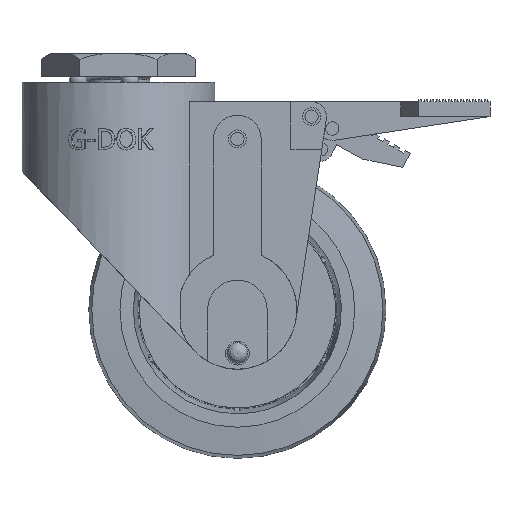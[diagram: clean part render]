
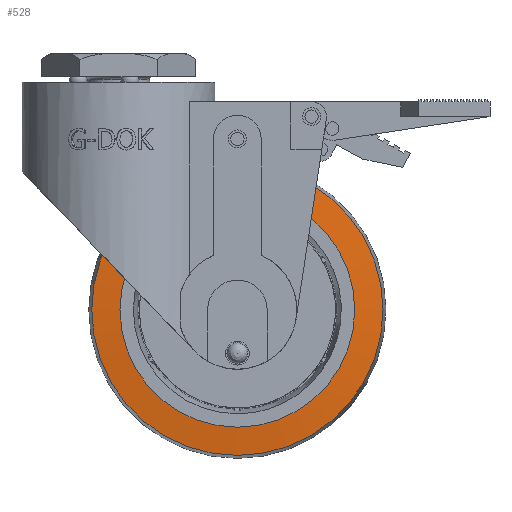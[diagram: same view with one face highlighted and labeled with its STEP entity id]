
A CAD part, front view. The second image highlights one B-rep face of the part: STEP entity #528.
In plain terms, the highlighted conical face has half-angle 83.991 degrees and reference radius 48.05 mm.
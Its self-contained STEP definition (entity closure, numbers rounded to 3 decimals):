
#476=CARTESIAN_POINT('',(93.752,44.482,11.2));
#477=VERTEX_POINT('',#476);
#478=CARTESIAN_POINT('',(93.752,44.482,-67.8));
#479=VERTEX_POINT('',#478);
#480=CARTESIAN_POINT('',(93.752,44.482,-28.3));
#481=DIRECTION('',(0.,-1.,0.));
#482=DIRECTION('',(0.294,0.,0.956));
#483=AXIS2_PLACEMENT_3D('',#480,#481,#482);
#484=CIRCLE('',#483,39.5);
#485=EDGE_CURVE('',#477,#479,#484,.T.);
#487=CARTESIAN_POINT('',(93.752,44.482,-28.3));
#488=DIRECTION('',(0.,-1.,0.));
#489=DIRECTION('',(0.294,0.,0.956));
#490=AXIS2_PLACEMENT_3D('',#487,#488,#489);
#491=CIRCLE('',#490,39.5);
#492=EDGE_CURVE('',#479,#477,#491,.T.);
#508=CARTESIAN_POINT('',(93.752,45.382,-28.3));
#509=DIRECTION('',(0.,1.0,0.));
#510=DIRECTION('',(0.294,0.,0.956));
#511=AXIS2_PLACEMENT_3D('',#508,#509,#510);
#512=CONICAL_SURFACE('',#511,48.05,83.991);
#513=CARTESIAN_POINT('',(93.752,45.482,-77.3));
#514=VERTEX_POINT('',#513);
#515=CARTESIAN_POINT('',(93.752,45.482,-28.3));
#516=DIRECTION('',(0.0,-1.0,0.0));
#517=DIRECTION('',(0.0,0.0,1.0));
#518=AXIS2_PLACEMENT_3D('',#515,#516,#517);
#519=CIRCLE('',#518,49.);
#520=EDGE_CURVE('',#514,#514,#519,.T.);
#521=ORIENTED_EDGE('',*,*,#520,.T.);
#522=EDGE_LOOP('',(#521));
#523=FACE_OUTER_BOUND('',#522,.T.);
#524=ORIENTED_EDGE('',*,*,#485,.F.);
#525=ORIENTED_EDGE('',*,*,#492,.F.);
#526=EDGE_LOOP('',(#524,#525));
#527=FACE_BOUND('',#526,.T.);
#528=ADVANCED_FACE('',(#523,#527),#512,.T.);
